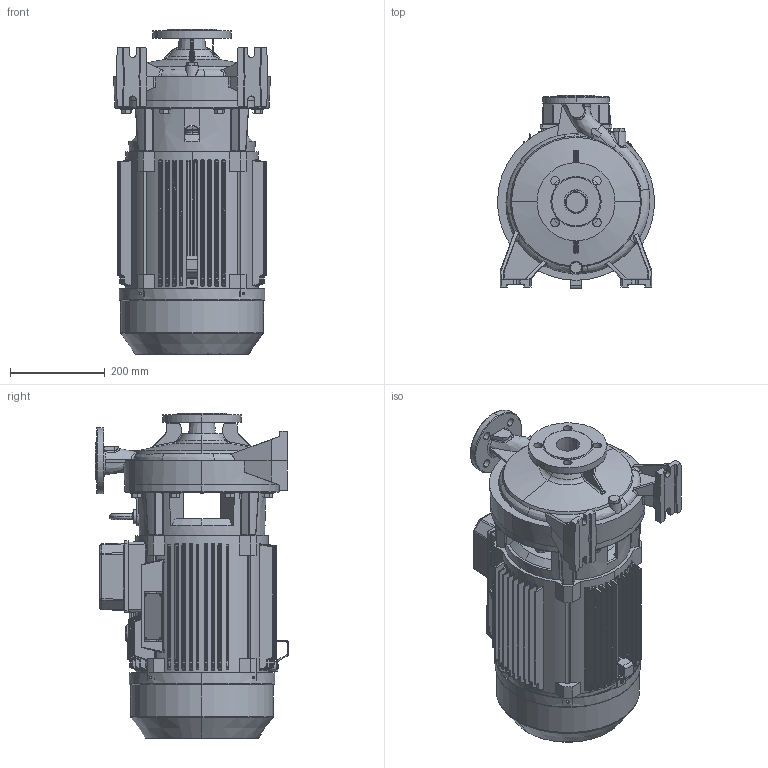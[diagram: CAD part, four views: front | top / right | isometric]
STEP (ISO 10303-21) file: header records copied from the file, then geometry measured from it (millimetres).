
FILE_DESCRIPTION (( 'STEP AP203' ), '1' );
FILE_NAME ('CN32-250A.STEP', '2020-03-05T16:59:21', ( '' ), ( '' ), 'SwSTEP 2.0', 'SolidWorks 2019', '' );
FILE_SCHEMA (( 'CONFIG_CONTROL_DESIGN' ));
Products named in the file (2): CN32-250A
Bounding box: 331.56 x 407.92 x 686.5 mm (x, y, z)
Surface area: 1785589.6 mm2 (no closed solid volume)
Topology: 0 solids, 32 shells, 2657 faces, 8624 edges, 5794 vertices
Faces by surface type: plane 1020, bspline 696, cylinder 574, cone 280, torus 77, sphere 10
Entity records: 154776 total; most frequent: CARTESIAN_POINT 88225, ORIENTED_EDGE 14032, DIRECTION 11421, EDGE_CURVE 8579, VERTEX_POINT 5794, VECTOR 4233, LINE 4233, AXIS2_PLACEMENT_3D 3594
